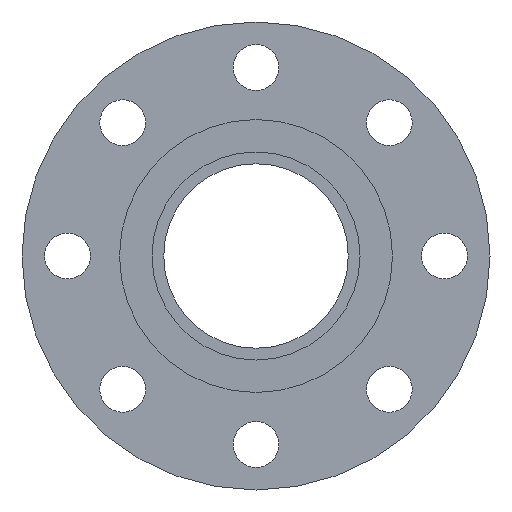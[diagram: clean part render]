
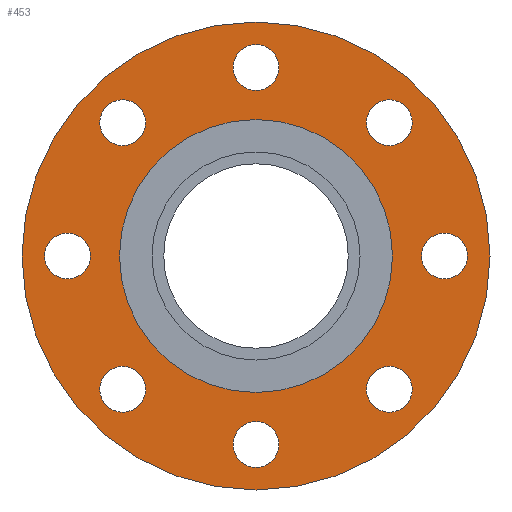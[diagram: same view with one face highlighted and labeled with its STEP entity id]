
A CAD part, left-side view. The second image highlights one B-rep face of the part: STEP entity #453.
In plain terms, the highlighted planar face has unit normal (-1, 0, 0).
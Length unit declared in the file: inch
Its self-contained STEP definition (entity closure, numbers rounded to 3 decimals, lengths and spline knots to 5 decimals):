
#14=FACE_BOUND('',#76,.T.);
#15=FACE_BOUND('',#77,.T.);
#16=FACE_BOUND('',#78,.T.);
#17=FACE_BOUND('',#79,.T.);
#18=FACE_BOUND('',#80,.T.);
#19=FACE_BOUND('',#81,.T.);
#20=FACE_BOUND('',#82,.T.);
#21=FACE_BOUND('',#83,.T.);
#22=FACE_BOUND('',#84,.T.);
#37=PLANE('',#515);
#53=FACE_OUTER_BOUND('',#75,.T.);
#75=EDGE_LOOP('',(#326,#327));
#76=EDGE_LOOP('',(#328));
#77=EDGE_LOOP('',(#329));
#78=EDGE_LOOP('',(#330));
#79=EDGE_LOOP('',(#331));
#80=EDGE_LOOP('',(#332));
#81=EDGE_LOOP('',(#333));
#82=EDGE_LOOP('',(#334));
#83=EDGE_LOOP('',(#335));
#84=EDGE_LOOP('',(#336,#337));
#142=CIRCLE('',#488,0.44);
#144=CIRCLE('',#491,0.44);
#146=CIRCLE('',#494,0.44);
#148=CIRCLE('',#497,0.44);
#150=CIRCLE('',#500,0.44);
#152=CIRCLE('',#503,0.44);
#154=CIRCLE('',#506,0.44);
#156=CIRCLE('',#509,0.44);
#157=CIRCLE('',#511,4.5);
#158=CIRCLE('',#512,4.5);
#161=CIRCLE('',#516,2.625);
#162=CIRCLE('',#517,2.625);
#186=VERTEX_POINT('',#705);
#188=VERTEX_POINT('',#711);
#190=VERTEX_POINT('',#717);
#192=VERTEX_POINT('',#723);
#194=VERTEX_POINT('',#729);
#196=VERTEX_POINT('',#735);
#198=VERTEX_POINT('',#741);
#200=VERTEX_POINT('',#747);
#201=VERTEX_POINT('',#751);
#202=VERTEX_POINT('',#752);
#205=VERTEX_POINT('',#761);
#206=VERTEX_POINT('',#762);
#231=EDGE_CURVE('',#186,#186,#142,.T.);
#234=EDGE_CURVE('',#188,#188,#144,.T.);
#237=EDGE_CURVE('',#190,#190,#146,.T.);
#240=EDGE_CURVE('',#192,#192,#148,.T.);
#243=EDGE_CURVE('',#194,#194,#150,.T.);
#246=EDGE_CURVE('',#196,#196,#152,.T.);
#249=EDGE_CURVE('',#198,#198,#154,.T.);
#252=EDGE_CURVE('',#200,#200,#156,.T.);
#253=EDGE_CURVE('',#201,#202,#157,.T.);
#254=EDGE_CURVE('',#202,#201,#158,.T.);
#258=EDGE_CURVE('',#205,#206,#161,.T.);
#259=EDGE_CURVE('',#206,#205,#162,.T.);
#326=ORIENTED_EDGE('',*,*,#253,.T.);
#327=ORIENTED_EDGE('',*,*,#254,.T.);
#328=ORIENTED_EDGE('',*,*,#231,.T.);
#329=ORIENTED_EDGE('',*,*,#234,.T.);
#330=ORIENTED_EDGE('',*,*,#237,.T.);
#331=ORIENTED_EDGE('',*,*,#240,.T.);
#332=ORIENTED_EDGE('',*,*,#243,.T.);
#333=ORIENTED_EDGE('',*,*,#246,.T.);
#334=ORIENTED_EDGE('',*,*,#249,.T.);
#335=ORIENTED_EDGE('',*,*,#252,.T.);
#336=ORIENTED_EDGE('',*,*,#258,.F.);
#337=ORIENTED_EDGE('',*,*,#259,.F.);
#453=ADVANCED_FACE('',(#53,#14,#15,#16,#17,#18,#19,#20,#21,#22),#37,.T.);
#488=AXIS2_PLACEMENT_3D('',#707,#559,#560);
#491=AXIS2_PLACEMENT_3D('',#713,#566,#567);
#494=AXIS2_PLACEMENT_3D('',#719,#573,#574);
#497=AXIS2_PLACEMENT_3D('',#725,#580,#581);
#500=AXIS2_PLACEMENT_3D('',#731,#587,#588);
#503=AXIS2_PLACEMENT_3D('',#737,#594,#595);
#506=AXIS2_PLACEMENT_3D('',#743,#601,#602);
#509=AXIS2_PLACEMENT_3D('',#749,#608,#609);
#511=AXIS2_PLACEMENT_3D('',#753,#612,#613);
#512=AXIS2_PLACEMENT_3D('',#754,#614,#615);
#515=AXIS2_PLACEMENT_3D('',#760,#621,#622);
#516=AXIS2_PLACEMENT_3D('',#763,#623,#624);
#517=AXIS2_PLACEMENT_3D('',#764,#625,#626);
#559=DIRECTION('center_axis',(1.,0.,0.));
#560=DIRECTION('ref_axis',(0.,-0.707,0.707));
#566=DIRECTION('center_axis',(1.,0.,0.));
#567=DIRECTION('ref_axis',(0.,-1.,0.));
#573=DIRECTION('center_axis',(1.,0.,0.));
#574=DIRECTION('ref_axis',(0.,-0.707,-0.707));
#580=DIRECTION('center_axis',(1.,0.,0.));
#581=DIRECTION('ref_axis',(0.,0.,-1.));
#587=DIRECTION('center_axis',(1.,0.,0.));
#588=DIRECTION('ref_axis',(0.,0.707,-0.707));
#594=DIRECTION('center_axis',(1.,0.,0.));
#595=DIRECTION('ref_axis',(0.,1.,0.));
#601=DIRECTION('center_axis',(1.,0.,0.));
#602=DIRECTION('ref_axis',(0.,0.707,0.707));
#608=DIRECTION('center_axis',(1.,0.,0.));
#609=DIRECTION('ref_axis',(0.,0.,1.));
#612=DIRECTION('center_axis',(-1.,0.,0.));
#613=DIRECTION('ref_axis',(0.,0.,1.));
#614=DIRECTION('center_axis',(-1.,0.,0.));
#615=DIRECTION('ref_axis',(0.,0.,1.));
#621=DIRECTION('center_axis',(-1.,0.,0.));
#622=DIRECTION('ref_axis',(0.,0.,1.));
#623=DIRECTION('center_axis',(-1.,0.,0.));
#624=DIRECTION('ref_axis',(0.,0.,1.));
#625=DIRECTION('center_axis',(-1.,0.,0.));
#626=DIRECTION('ref_axis',(0.,0.,1.));
#705=CARTESIAN_POINT('',(-1.19,2.87439,-2.87439));
#707=CARTESIAN_POINT('Origin',(-1.19,2.56326,-2.56326));
#711=CARTESIAN_POINT('',(-1.19,4.065,0.));
#713=CARTESIAN_POINT('Origin',(-1.19,3.625,0.));
#717=CARTESIAN_POINT('',(-1.19,2.87439,2.87439));
#719=CARTESIAN_POINT('Origin',(-1.19,2.56326,2.56326));
#723=CARTESIAN_POINT('',(-1.19,0.,4.065));
#725=CARTESIAN_POINT('Origin',(-1.19,0.,3.625));
#729=CARTESIAN_POINT('',(-1.19,-2.87439,2.87439));
#731=CARTESIAN_POINT('Origin',(-1.19,-2.56326,2.56326));
#735=CARTESIAN_POINT('',(-1.19,-4.065,0.));
#737=CARTESIAN_POINT('Origin',(-1.19,-3.625,0.));
#741=CARTESIAN_POINT('',(-1.19,-2.87439,-2.87439));
#743=CARTESIAN_POINT('Origin',(-1.19,-2.56326,-2.56326));
#747=CARTESIAN_POINT('',(-1.19,0.,-4.065));
#749=CARTESIAN_POINT('Origin',(-1.19,0.,-3.625));
#751=CARTESIAN_POINT('',(-1.19,0.,4.5));
#752=CARTESIAN_POINT('',(-1.19,0.,-4.5));
#753=CARTESIAN_POINT('Origin',(-1.19,0.,0.));
#754=CARTESIAN_POINT('Origin',(-1.19,0.,0.));
#760=CARTESIAN_POINT('Origin',(-1.19,0.,3.5625));
#761=CARTESIAN_POINT('',(-1.19,0.,2.625));
#762=CARTESIAN_POINT('',(-1.19,0.,-2.625));
#763=CARTESIAN_POINT('Origin',(-1.19,0.,0.));
#764=CARTESIAN_POINT('Origin',(-1.19,0.,0.));
